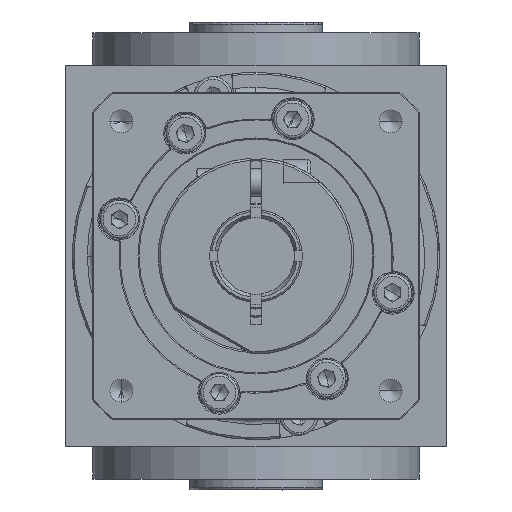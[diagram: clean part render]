
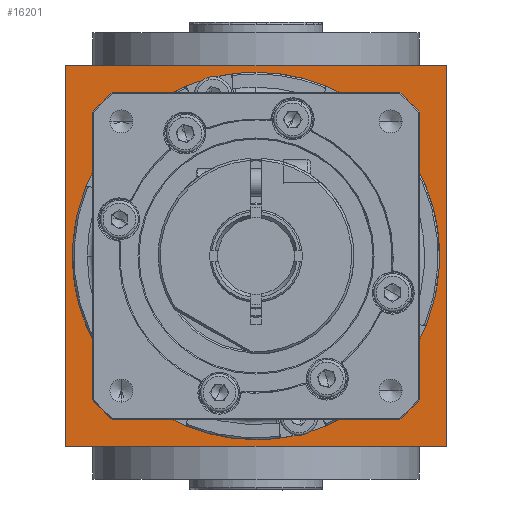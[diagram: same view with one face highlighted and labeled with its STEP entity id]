
A CAD part, front view. The second image highlights one B-rep face of the part: STEP entity #16201.
In plain terms, the highlighted planar face has unit normal (0, -1, 0).
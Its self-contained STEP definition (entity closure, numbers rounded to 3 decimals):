
#45 = CIRCLE ( 'NONE', #22245, 40. ) ;
#1324 = DIRECTION ( 'NONE',  ( 0., 0., 1. ) ) ;
#1329 = DIRECTION ( 'NONE',  ( 0., 0., 1. ) ) ;
#1418 = CARTESIAN_POINT ( 'NONE',  ( 0., -35., 0. ) ) ;
#1559 = EDGE_LOOP ( 'NONE', ( #9040, #26860, #19938, #30314, #5145, #6808, #16827, #4857 ) ) ;
#1818 = CARTESIAN_POINT ( 'NONE',  ( -35., -35., -30. ) ) ;
#2195 = EDGE_CURVE ( 'NONE', #20168, #28267, #10588, .T. ) ;
#2382 = VECTOR ( 'NONE', #1324, 1000. ) ;
#2586 = ORIENTED_EDGE ( 'NONE', *, *, #20876, .F. ) ;
#2811 = VERTEX_POINT ( 'NONE', #6968 ) ;
#2922 = DIRECTION ( 'NONE',  ( 0., 0., -1. ) ) ;
#3017 = VECTOR ( 'NONE', #28150, 1000. ) ;
#3151 = CARTESIAN_POINT ( 'NONE',  ( -35., -35., 30. ) ) ;
#3452 = CIRCLE ( 'NONE', #12743, 40. ) ;
#3562 = VECTOR ( 'NONE', #15338, 1000. ) ;
#4326 = DIRECTION ( 'NONE',  ( 0., 0., 1. ) ) ;
#4386 = DIRECTION ( 'NONE',  ( 0., -1., 0. ) ) ;
#4542 = VECTOR ( 'NONE', #2922, 1000. ) ;
#4700 = DIRECTION ( 'NONE',  ( 0., 0., -1. ) ) ;
#4857 = ORIENTED_EDGE ( 'NONE', *, *, #25967, .T. ) ;
#5011 = EDGE_CURVE ( 'NONE', #9114, #7265, #22335, .T. ) ;
#5145 = ORIENTED_EDGE ( 'NONE', *, *, #11794, .T. ) ;
#5342 = DIRECTION ( 'NONE',  ( 1., 0., 0. ) ) ;
#5483 = EDGE_CURVE ( 'NONE', #15838, #12434, #10341, .T. ) ;
#5600 = CARTESIAN_POINT ( 'NONE',  ( -26.458, -35., -30. ) ) ;
#6808 = ORIENTED_EDGE ( 'NONE', *, *, #11800, .T. ) ;
#6968 = CARTESIAN_POINT ( 'NONE',  ( -30., -35., 26.458 ) ) ;
#7265 = VERTEX_POINT ( 'NONE', #16260 ) ;
#7942 = CARTESIAN_POINT ( 'NONE',  ( 0., -35., 35. ) ) ;
#8613 = EDGE_CURVE ( 'NONE', #12434, #17251, #19676, .T. ) ;
#8914 = ORIENTED_EDGE ( 'NONE', *, *, #5011, .T. ) ;
#8953 = LINE ( 'NONE', #1818, #31767 ) ;
#9040 = ORIENTED_EDGE ( 'NONE', *, *, #2195, .T. ) ;
#9114 = VERTEX_POINT ( 'NONE', #26254 ) ;
#9339 = DIRECTION ( 'NONE',  ( 0., 1., 0. ) ) ;
#9478 = AXIS2_PLACEMENT_3D ( 'NONE', #21543, #30964, #11683 ) ;
#9636 = DIRECTION ( 'NONE',  ( 0., 1., 0. ) ) ;
#10341 = LINE ( 'NONE', #27162, #3562 ) ;
#10588 = LINE ( 'NONE', #3151, #12829 ) ;
#10602 = CARTESIAN_POINT ( 'NONE',  ( 26.458, -35., -30. ) ) ;
#11507 = LINE ( 'NONE', #23467, #2382 ) ;
#11683 = DIRECTION ( 'NONE',  ( 0., 0., 1. ) ) ;
#11794 = EDGE_CURVE ( 'NONE', #17251, #29117, #8953, .T. ) ;
#11800 = EDGE_CURVE ( 'NONE', #29117, #18384, #16767, .T. ) ;
#11819 = PLANE ( 'NONE',  #13946 ) ;
#12434 = VERTEX_POINT ( 'NONE', #27952 ) ;
#12743 = AXIS2_PLACEMENT_3D ( 'NONE', #31814, #9636, #4326 ) ;
#12829 = VECTOR ( 'NONE', #24816, 1000. ) ;
#13392 = CARTESIAN_POINT ( 'NONE',  ( -26.458, -35., 30. ) ) ;
#13515 = EDGE_CURVE ( 'NONE', #18384, #2811, #11507, .T. ) ;
#13781 = CARTESIAN_POINT ( 'NONE',  ( 0., -35., 0. ) ) ;
#13878 = DIRECTION ( 'NONE',  ( 0., 0., 1. ) ) ;
#13946 = AXIS2_PLACEMENT_3D ( 'NONE', #21847, #4386, #4700 ) ;
#15246 = EDGE_CURVE ( 'NONE', #23340, #25371, #22952, .T. ) ;
#15338 = DIRECTION ( 'NONE',  ( 0., 0., -1. ) ) ;
#15838 = VERTEX_POINT ( 'NONE', #24944 ) ;
#16201 = ADVANCED_FACE ( 'NONE', ( #16514, #26867 ), #11819, .T. ) ;
#16250 = VECTOR ( 'NONE', #5342, 1000. ) ;
#16260 = CARTESIAN_POINT ( 'NONE',  ( -35., -35., -35. ) ) ;
#16514 = FACE_BOUND ( 'NONE', #1559, .T. ) ;
#16767 = CIRCLE ( 'NONE', #9478, 40. ) ;
#16827 = ORIENTED_EDGE ( 'NONE', *, *, #13515, .T. ) ;
#17251 = VERTEX_POINT ( 'NONE', #10602 ) ;
#17799 = DIRECTION ( 'NONE',  ( 1., 0., 0. ) ) ;
#18384 = VERTEX_POINT ( 'NONE', #24475 ) ;
#18424 = CARTESIAN_POINT ( 'NONE',  ( 35., -35., -35. ) ) ;
#19144 = ORIENTED_EDGE ( 'NONE', *, *, #28292, .T. ) ;
#19676 = CIRCLE ( 'NONE', #20188, 40. ) ;
#19938 = ORIENTED_EDGE ( 'NONE', *, *, #5483, .T. ) ;
#20168 = VERTEX_POINT ( 'NONE', #13392 ) ;
#20188 = AXIS2_PLACEMENT_3D ( 'NONE', #1418, #9339, #13878 ) ;
#20876 = EDGE_CURVE ( 'NONE', #9114, #23340, #30120, .T. ) ;
#21543 = CARTESIAN_POINT ( 'NONE',  ( 0., -35., 0. ) ) ;
#21847 = CARTESIAN_POINT ( 'NONE',  ( -35., -35., -35. ) ) ;
#22245 = AXIS2_PLACEMENT_3D ( 'NONE', #13781, #30789, #1329 ) ;
#22309 = ORIENTED_EDGE ( 'NONE', *, *, #15246, .F. ) ;
#22335 = LINE ( 'NONE', #29794, #4542 ) ;
#22952 = LINE ( 'NONE', #18424, #3017 ) ;
#23340 = VERTEX_POINT ( 'NONE', #23893 ) ;
#23467 = CARTESIAN_POINT ( 'NONE',  ( -30., -35., -35. ) ) ;
#23893 = CARTESIAN_POINT ( 'NONE',  ( 35., -35., 35. ) ) ;
#24475 = CARTESIAN_POINT ( 'NONE',  ( -30., -35., -26.458 ) ) ;
#24816 = DIRECTION ( 'NONE',  ( 1., 0., 0. ) ) ;
#24944 = CARTESIAN_POINT ( 'NONE',  ( 30., -35., 26.458 ) ) ;
#25078 = LINE ( 'NONE', #28017, #31276 ) ;
#25371 = VERTEX_POINT ( 'NONE', #27916 ) ;
#25967 = EDGE_CURVE ( 'NONE', #2811, #20168, #45, .T. ) ;
#26254 = CARTESIAN_POINT ( 'NONE',  ( -35., -35., 35. ) ) ;
#26860 = ORIENTED_EDGE ( 'NONE', *, *, #29012, .T. ) ;
#26867 = FACE_OUTER_BOUND ( 'NONE', #27119, .T. ) ;
#27119 = EDGE_LOOP ( 'NONE', ( #22309, #2586, #8914, #19144 ) ) ;
#27162 = CARTESIAN_POINT ( 'NONE',  ( 30., -35., -35. ) ) ;
#27916 = CARTESIAN_POINT ( 'NONE',  ( 35., -35., -35. ) ) ;
#27952 = CARTESIAN_POINT ( 'NONE',  ( 30., -35., -26.458 ) ) ;
#28017 = CARTESIAN_POINT ( 'NONE',  ( 0., -35., -35. ) ) ;
#28150 = DIRECTION ( 'NONE',  ( 0., 0., -1. ) ) ;
#28267 = VERTEX_POINT ( 'NONE', #30446 ) ;
#28292 = EDGE_CURVE ( 'NONE', #7265, #25371, #25078, .T. ) ;
#29012 = EDGE_CURVE ( 'NONE', #28267, #15838, #3452, .T. ) ;
#29024 = DIRECTION ( 'NONE',  ( -1., 0., 0. ) ) ;
#29117 = VERTEX_POINT ( 'NONE', #5600 ) ;
#29794 = CARTESIAN_POINT ( 'NONE',  ( -35., -35., -35. ) ) ;
#30120 = LINE ( 'NONE', #7942, #16250 ) ;
#30314 = ORIENTED_EDGE ( 'NONE', *, *, #8613, .T. ) ;
#30446 = CARTESIAN_POINT ( 'NONE',  ( 26.458, -35., 30. ) ) ;
#30789 = DIRECTION ( 'NONE',  ( 0., 1., 0. ) ) ;
#30964 = DIRECTION ( 'NONE',  ( 0., 1., 0. ) ) ;
#31276 = VECTOR ( 'NONE', #17799, 1000. ) ;
#31767 = VECTOR ( 'NONE', #29024, 1000. ) ;
#31814 = CARTESIAN_POINT ( 'NONE',  ( 0., -35., 0. ) ) ;
